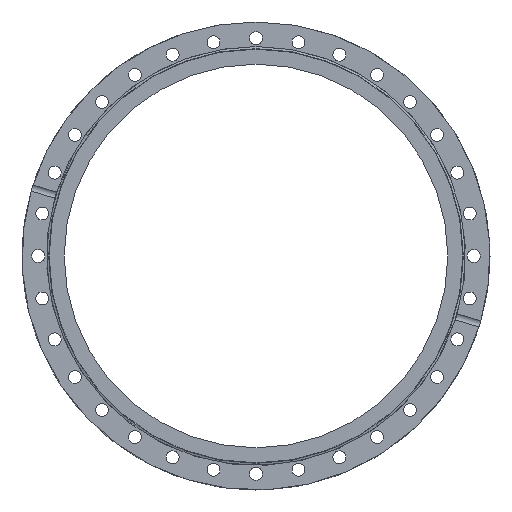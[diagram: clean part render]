
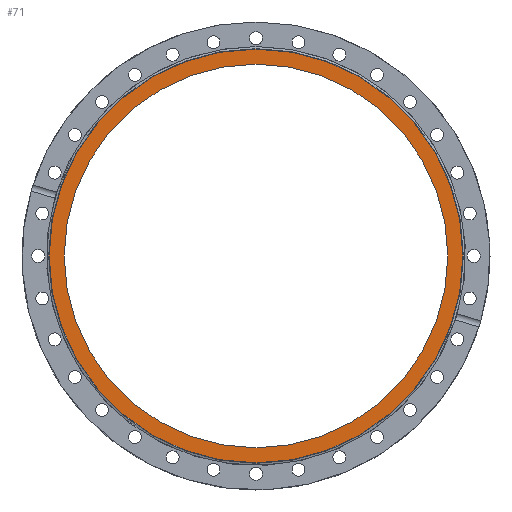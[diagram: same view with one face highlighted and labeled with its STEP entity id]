
A CAD part, left-side view. The second image highlights one B-rep face of the part: STEP entity #71.
In plain terms, the highlighted planar face has unit normal (-1, 0, 0).
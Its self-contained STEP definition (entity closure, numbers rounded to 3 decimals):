
#71 = ADVANCED_FACE( '', ( #180, #181 ), #182, .F. );
#180 = FACE_BOUND( '', #427, .T. );
#181 = FACE_OUTER_BOUND( '', #428, .T. );
#182 = PLANE( '', #429 );
#427 = EDGE_LOOP( '', ( #670 ) );
#428 = EDGE_LOOP( '', ( #671 ) );
#429 = AXIS2_PLACEMENT_3D( '', #672, #673, #674 );
#670 = ORIENTED_EDGE( '', *, *, #1015, .F. );
#671 = ORIENTED_EDGE( '', *, *, #1016, .T. );
#672 = CARTESIAN_POINT( '', ( -23.7, 0., 134.835 ) );
#673 = DIRECTION( '', ( 1., 0., 0. ) );
#674 = DIRECTION( '', ( 0., 0., -1. ) );
#1015 = EDGE_CURVE( '', #1146, #1146, #1147, .T. );
#1016 = EDGE_CURVE( '', #1148, #1148, #1149, .T. );
#1146 = VERTEX_POINT( '', #1355 );
#1147 = CIRCLE( '', #1356, 125. );
#1148 = VERTEX_POINT( '', #1357 );
#1149 = CIRCLE( '', #1358, 134.835 );
#1355 = CARTESIAN_POINT( '', ( -23.7, 0., 125. ) );
#1356 = AXIS2_PLACEMENT_3D( '', #1636, #1637, #1638 );
#1357 = CARTESIAN_POINT( '', ( -23.7, 0., 134.835 ) );
#1358 = AXIS2_PLACEMENT_3D( '', #1639, #1640, #1641 );
#1636 = CARTESIAN_POINT( '', ( -23.7, 0., 0. ) );
#1637 = DIRECTION( '', ( -1., 0., 0. ) );
#1638 = DIRECTION( '', ( 0., 0., 1. ) );
#1639 = CARTESIAN_POINT( '', ( -23.7, 0., 0. ) );
#1640 = DIRECTION( '', ( -1., 0., 0. ) );
#1641 = DIRECTION( '', ( 0., 0., 1. ) );
